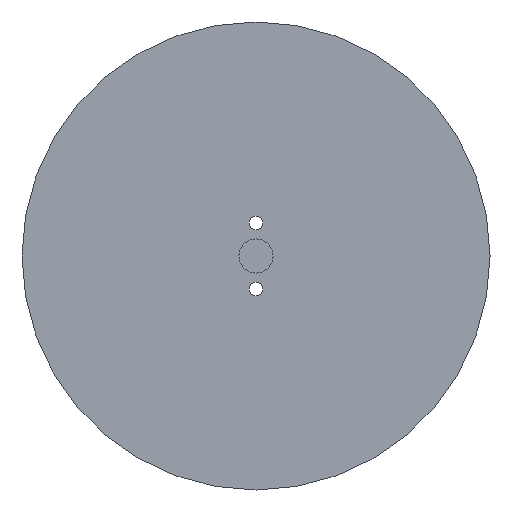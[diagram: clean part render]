
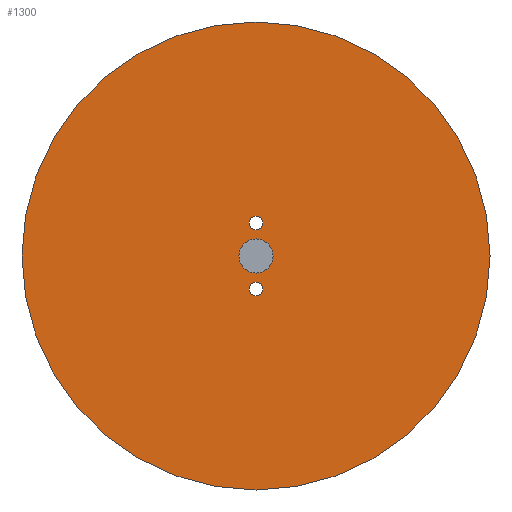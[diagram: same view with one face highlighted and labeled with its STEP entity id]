
A CAD part, front view. The second image highlights one B-rep face of the part: STEP entity #1300.
In plain terms, the highlighted planar face has unit normal (0, -1, 0).
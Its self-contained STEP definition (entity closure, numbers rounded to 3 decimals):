
#46 = CARTESIAN_POINT ( 'NONE',  ( 0., 0., 0. ) ) ;
#57 = VERTEX_POINT ( 'NONE', #2039 ) ;
#58 = EDGE_CURVE ( 'NONE', #2546, #1823, #1862, .T. ) ;
#59 = CARTESIAN_POINT ( 'NONE',  ( 0., 0., -51.5 ) ) ;
#128 = VERTEX_POINT ( 'NONE', #2118 ) ;
#176 = CARTESIAN_POINT ( 'NONE',  ( 0., 0., -3.75 ) ) ;
#224 = EDGE_LOOP ( 'NONE', ( #3102, #775 ) ) ;
#231 = CARTESIAN_POINT ( 'NONE',  ( 0., 0., 0. ) ) ;
#234 = VERTEX_POINT ( 'NONE', #2542 ) ;
#288 = CARTESIAN_POINT ( 'NONE',  ( 0., 0., 0. ) ) ;
#319 = DIRECTION ( 'NONE',  ( 0., 0., -1. ) ) ;
#320 = AXIS2_PLACEMENT_3D ( 'NONE', #46, #1214, #2363 ) ;
#458 = CARTESIAN_POINT ( 'NONE',  ( 0., 0., -7.25 ) ) ;
#531 = ORIENTED_EDGE ( 'NONE', *, *, #626, .F. ) ;
#548 = CIRCLE ( 'NONE', #657, 1.5 ) ;
#568 = ORIENTED_EDGE ( 'NONE', *, *, #1991, .F. ) ;
#598 = DIRECTION ( 'NONE',  ( 0., -1., 0. ) ) ;
#626 = EDGE_CURVE ( 'NONE', #128, #2795, #548, .T. ) ;
#634 = CARTESIAN_POINT ( 'NONE',  ( 0., 0., 7.25 ) ) ;
#657 = AXIS2_PLACEMENT_3D ( 'NONE', #458, #3144, #1707 ) ;
#775 = ORIENTED_EDGE ( 'NONE', *, *, #2339, .F. ) ;
#787 = CARTESIAN_POINT ( 'NONE',  ( 0., 0., 0. ) ) ;
#866 = CIRCLE ( 'NONE', #2190, 1.5 ) ;
#928 = AXIS2_PLACEMENT_3D ( 'NONE', #2656, #2593, #1174 ) ;
#1001 = PLANE ( 'NONE',  #2966 ) ;
#1012 = CARTESIAN_POINT ( 'NONE',  ( 0., 0., -7.25 ) ) ;
#1064 = CIRCLE ( 'NONE', #1183, 51.5 ) ;
#1090 = ORIENTED_EDGE ( 'NONE', *, *, #1488, .F. ) ;
#1134 = EDGE_LOOP ( 'NONE', ( #568, #1894 ) ) ;
#1174 = DIRECTION ( 'NONE',  ( 0., 0., -1. ) ) ;
#1183 = AXIS2_PLACEMENT_3D ( 'NONE', #231, #1584, #3685 ) ;
#1214 = DIRECTION ( 'NONE',  ( 0., -1., 0. ) ) ;
#1230 = FACE_OUTER_BOUND ( 'NONE', #2704, .T. ) ;
#1300 = ADVANCED_FACE ( 'NONE', ( #2059, #2654, #2673, #1230 ), #1001, .F. ) ;
#1328 = CARTESIAN_POINT ( 'NONE',  ( 0., 0., 0. ) ) ;
#1488 = EDGE_CURVE ( 'NONE', #2795, #128, #866, .T. ) ;
#1574 = EDGE_CURVE ( 'NONE', #234, #2168, #3699, .T. ) ;
#1584 = DIRECTION ( 'NONE',  ( 0., 1., 0. ) ) ;
#1694 = DIRECTION ( 'NONE',  ( 0., 0., 1. ) ) ;
#1698 = ORIENTED_EDGE ( 'NONE', *, *, #3237, .F. ) ;
#1707 = DIRECTION ( 'NONE',  ( 0., 0., -1. ) ) ;
#1723 = CIRCLE ( 'NONE', #928, 1.5 ) ;
#1776 = CARTESIAN_POINT ( 'NONE',  ( 0., 0., 3.75 ) ) ;
#1823 = VERTEX_POINT ( 'NONE', #176 ) ;
#1851 = EDGE_LOOP ( 'NONE', ( #1090, #531 ) ) ;
#1862 = CIRCLE ( 'NONE', #3242, 3.75 ) ;
#1894 = ORIENTED_EDGE ( 'NONE', *, *, #58, .F. ) ;
#1991 = EDGE_CURVE ( 'NONE', #1823, #2546, #3466, .T. ) ;
#2039 = CARTESIAN_POINT ( 'NONE',  ( 0., 0., 5.75 ) ) ;
#2059 = FACE_BOUND ( 'NONE', #1134, .T. ) ;
#2064 = AXIS2_PLACEMENT_3D ( 'NONE', #787, #2266, #1694 ) ;
#2118 = CARTESIAN_POINT ( 'NONE',  ( 0., 0., -5.75 ) ) ;
#2168 = VERTEX_POINT ( 'NONE', #59 ) ;
#2174 = DIRECTION ( 'NONE',  ( 0., 1., 0. ) ) ;
#2190 = AXIS2_PLACEMENT_3D ( 'NONE', #1012, #2231, #3041 ) ;
#2231 = DIRECTION ( 'NONE',  ( 0., -1., 0. ) ) ;
#2234 = VERTEX_POINT ( 'NONE', #2575 ) ;
#2266 = DIRECTION ( 'NONE',  ( 0., 1., 0. ) ) ;
#2326 = CIRCLE ( 'NONE', #2454, 1.5 ) ;
#2339 = EDGE_CURVE ( 'NONE', #2234, #57, #1723, .T. ) ;
#2363 = DIRECTION ( 'NONE',  ( 0., 0., -1. ) ) ;
#2385 = DIRECTION ( 'NONE',  ( 0., -1., 0. ) ) ;
#2454 = AXIS2_PLACEMENT_3D ( 'NONE', #634, #2385, #319 ) ;
#2542 = CARTESIAN_POINT ( 'NONE',  ( 0., 0., 51.5 ) ) ;
#2546 = VERTEX_POINT ( 'NONE', #1776 ) ;
#2575 = CARTESIAN_POINT ( 'NONE',  ( 0., 0., 8.75 ) ) ;
#2593 = DIRECTION ( 'NONE',  ( 0., -1., 0. ) ) ;
#2601 = DIRECTION ( 'NONE',  ( 0., 0., -1. ) ) ;
#2654 = FACE_BOUND ( 'NONE', #224, .T. ) ;
#2656 = CARTESIAN_POINT ( 'NONE',  ( 0., 0., 7.25 ) ) ;
#2670 = CARTESIAN_POINT ( 'NONE',  ( 0., 0., -8.75 ) ) ;
#2673 = FACE_BOUND ( 'NONE', #1851, .T. ) ;
#2704 = EDGE_LOOP ( 'NONE', ( #1698, #3650 ) ) ;
#2795 = VERTEX_POINT ( 'NONE', #2670 ) ;
#2966 = AXIS2_PLACEMENT_3D ( 'NONE', #1328, #2174, #3300 ) ;
#3041 = DIRECTION ( 'NONE',  ( 0., 0., -1. ) ) ;
#3102 = ORIENTED_EDGE ( 'NONE', *, *, #3751, .F. ) ;
#3144 = DIRECTION ( 'NONE',  ( 0., -1., 0. ) ) ;
#3237 = EDGE_CURVE ( 'NONE', #2168, #234, #1064, .T. ) ;
#3242 = AXIS2_PLACEMENT_3D ( 'NONE', #288, #598, #2601 ) ;
#3300 = DIRECTION ( 'NONE',  ( 0., 0., 1. ) ) ;
#3466 = CIRCLE ( 'NONE', #320, 3.75 ) ;
#3650 = ORIENTED_EDGE ( 'NONE', *, *, #1574, .F. ) ;
#3685 = DIRECTION ( 'NONE',  ( 0., 0., 1. ) ) ;
#3699 = CIRCLE ( 'NONE', #2064, 51.5 ) ;
#3751 = EDGE_CURVE ( 'NONE', #57, #2234, #2326, .T. ) ;
